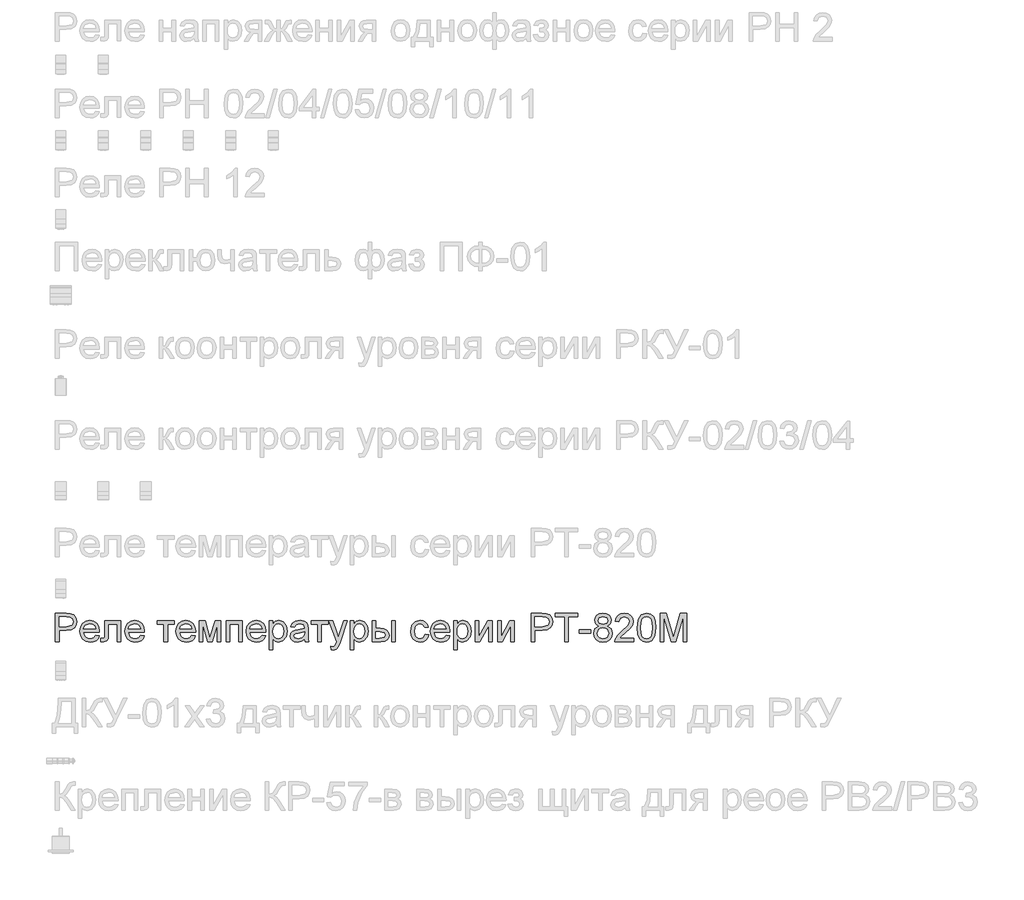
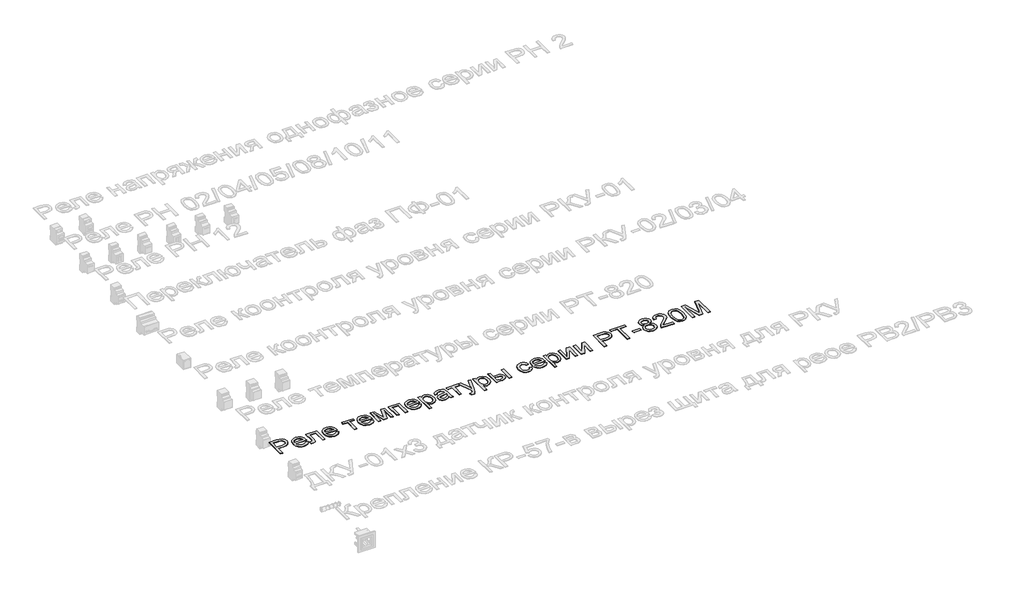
# One storey, part 7 of 34: 1 proxy.
"""IFC4 building model written with IfcOpenShell, lengths in millimetres."""

from ifc_helpers import new_model, si_unit, frame, origin, place, context, project, spatial, polyline, outline, extrude, element, save

model = new_model("IFC4")

# Units and contexts
model_context = context("Model", 3, world=origin())
ifc_project = project(units=[si_unit("LENGTHUNIT", "METRE", prefix="MILLI")], contexts=[model_context])

# Site, building, storey
site = spatial("IfcSite", under=ifc_project)
building = spatial("IfcBuilding", under=site)
storey = spatial("IfcBuildingStorey", under=building, Name="Этаж 01", Elevation=0.0)

# Proxy
placement = place(None, origin())
element("IfcBuildingElementProxy", 1, Name="Надпись на модели 1", ObjectType="Надпись на модели 1", at=placement, inside=storey, context=model_context, shape_type="SweptSolid", body=[
    extrude(outline(polyline([(-19039.0125911, 8086.235284), (-19039.0125911, 8186.6915941), (-19001.7829332, 8186.6915941), (-18986.7733478, 8185.735101), (-18974.5719283, 8181.0384742), (-18966.6624654, 8171.3263895), (-18963.6703585, 8157.6289165), (-18965.6906438, 8145.7892476), (-18971.7514996, 8135.9238788), (-18983.0853308, 8129.2652147), (-19000.9245418, 8127.04566), (-19026.4555523, 8127.04566), (-19026.4555523, 8086.235284), (-19039.0125911, 8086.235284)]), holes=[polyline([(-19026.4555523, 8139.6026988), (-19000.1887779, 8139.6026988), (-18981.6965762, 8144.2134864), (-18977.594692, 8149.7623732), (-18976.2273972, 8157.1874581), (-18979.4524961, 8167.5862559), (-18987.9260447, 8173.2761641), (-19000.4830834, 8174.1345554), (-19026.4555523, 8174.1345554), (-19026.4555523, 8139.6026988)])]), frame((0.0, 0.0, 40.0), z_axis=(0.0, 0.0, 1.0), x_axis=(1.0, 0.0, 0.0)), (0.0, 0.0, 1.0), 2.0),
    extrude(outline(polyline([(-18896.3234279, 8108.2101018), (-18884.0116438, 8106.640472), (-18888.4476875, 8097.3637143), (-18895.5263502, 8090.4291387), (-18905.0882164, 8086.1065253), (-18916.9738705, 8084.6656541), (-18931.7075445, 8087.1519233), (-18943.0444413, 8094.6107308), (-18950.2733225, 8106.5576985), (-18952.6829495, 8122.5084487), (-18950.248797, 8138.9956935), (-18942.9463394, 8151.3258717), (-18931.7627268, 8159.0146054), (-18917.6851091, 8161.5775166), (-18904.0458841, 8159.0207367), (-18893.14738, 8151.3503971), (-18886.0012722, 8139.0447444), (-18883.6192363, 8122.5820251), (-18883.6928127, 8119.1975108), (-18940.1259108, 8119.1975108), (-18937.9523413, 8109.7981258), (-18932.9031609, 8102.8880756), (-18925.6160317, 8098.6390386), (-18916.7286159, 8097.2226929), (-18904.4168318, 8099.8469178), (-18896.3234279, 8108.2101018)]), holes=[polyline([(-18940.1259108, 8131.7545495), (-18896.1762751, 8131.7545495), (-18901.2039957, 8143.1343659), (-18908.5248474, 8147.5489499), (-18917.73416, 8149.0204778), (-18933.1974665, 8144.323851), (-18938.0627059, 8138.8332123), (-18940.1259108, 8131.7545495)])]), frame((0.0, 0.0, 40.0), z_axis=(0.0, 0.0, 1.0), x_axis=(1.0, 0.0, 0.0)), (0.0, 0.0, 1.0), 2.0),
    extrude(outline(polyline([(-18864.7836782, 8160.0078868), (-18808.2770037, 8160.0078868), (-18808.2770037, 8086.3088604), (-18820.8340425, 8086.3088604), (-18820.8340425, 8147.450848), (-18852.2266394, 8147.450848), (-18852.2266394, 8112.2568038), (-18853.072768, 8096.0209451), (-18857.7203439, 8089.1660772), (-18868.7077528, 8086.235284), (-18878.9103468, 8086.8729461), (-18878.9103468, 8098.7923228), (-18873.294015, 8098.7923228), (-18867.6163695, 8099.564875), (-18865.3477639, 8102.0174216), (-18864.7836782, 8112.9680423), (-18864.7836782, 8160.0078868)])), frame((0.0, 0.0, 40.0), z_axis=(0.0, 0.0, 1.0), x_axis=(1.0, 0.0, 0.0)), (0.0, 0.0, 1.0), 2.0),
    extrude(outline(polyline([(-18737.7908134, 8108.2101018), (-18725.4790293, 8106.640472), (-18729.915073, 8097.3637143), (-18736.9937358, 8090.4291387), (-18746.555602, 8086.1065253), (-18758.4412561, 8084.6656541), (-18773.17493, 8087.1519233), (-18784.5118268, 8094.6107308), (-18791.740708, 8106.5576985), (-18794.1503351, 8122.5084487), (-18791.7161826, 8138.9956935), (-18784.4137249, 8151.3258717), (-18773.2301123, 8159.0146054), (-18759.1524946, 8161.5775166), (-18745.5132696, 8159.0207367), (-18734.6147655, 8151.3503971), (-18727.4686578, 8139.0447444), (-18725.0866219, 8122.5820251), (-18725.1601983, 8119.1975108), (-18781.5932963, 8119.1975108), (-18779.4197269, 8109.7981258), (-18774.3705465, 8102.8880756), (-18767.0834173, 8098.6390386), (-18758.1960014, 8097.2226929), (-18745.8842173, 8099.8469178), (-18737.7908134, 8108.2101018)]), holes=[polyline([(-18781.5932963, 8131.7545495), (-18737.6436606, 8131.7545495), (-18742.6713812, 8143.1343659), (-18749.9922329, 8147.5489499), (-18759.2015455, 8149.0204778), (-18774.6648521, 8144.323851), (-18779.5300915, 8138.8332123), (-18781.5932963, 8131.7545495)])]), frame((0.0, 0.0, 40.0), z_axis=(0.0, 0.0, 1.0), x_axis=(1.0, 0.0, 0.0)), (0.0, 0.0, 1.0), 2.0),
    extrude(outline(polyline([(-18679.5673563, 8160.0078868), (-18619.9214222, 8160.0078868), (-18619.9214222, 8147.450848), (-18643.4658699, 8147.450848), (-18643.4658699, 8086.235284), (-18656.0229086, 8086.235284), (-18656.0229086, 8147.450848), (-18679.5673563, 8147.450848), (-18679.5673563, 8160.0078868)])), frame((0.0, 0.0, 40.0), z_axis=(0.0, 0.0, 1.0), x_axis=(1.0, 0.0, 0.0)), (0.0, 0.0, 1.0), 2.0),
    extrude(outline(polyline([(-18557.2833811, 8108.2101018), (-18544.971597, 8106.640472), (-18549.4076407, 8097.3637143), (-18556.4863035, 8090.4291387), (-18566.0481697, 8086.1065253), (-18577.9338238, 8084.6656541), (-18592.6674977, 8087.1519233), (-18604.0043945, 8094.6107308), (-18611.2332757, 8106.5576985), (-18613.6429028, 8122.5084487), (-18611.2087503, 8138.9956935), (-18603.9062926, 8151.3258717), (-18592.72268, 8159.0146054), (-18578.6450623, 8161.5775166), (-18565.0058373, 8159.0207367), (-18554.1073332, 8151.3503971), (-18546.9612255, 8139.0447444), (-18544.5791896, 8122.5820251), (-18544.652766, 8119.1975108), (-18601.085864, 8119.1975108), (-18598.9122946, 8109.7981258), (-18593.8631142, 8102.8880756), (-18586.575985, 8098.6390386), (-18577.6885691, 8097.2226929), (-18565.376785, 8099.8469178), (-18557.2833811, 8108.2101018)]), holes=[polyline([(-18601.085864, 8131.7545495), (-18557.1362283, 8131.7545495), (-18562.1639489, 8143.1343659), (-18569.4848006, 8147.5489499), (-18578.6941132, 8149.0204778), (-18594.1574198, 8144.323851), (-18599.0226592, 8138.8332123), (-18601.085864, 8131.7545495)])]), frame((0.0, 0.0, 40.0), z_axis=(0.0, 0.0, 1.0), x_axis=(1.0, 0.0, 0.0)), (0.0, 0.0, 1.0), 2.0),
    extrude(outline(polyline([(-18532.0221508, 8160.0078868), (-18510.4152149, 8160.0078868), (-18493.7624233, 8100.9505638), (-18475.8097819, 8160.0078868), (-18455.1102883, 8160.0078868), (-18455.1102883, 8086.235284), (-18467.6673271, 8086.235284), (-18467.6673271, 8145.6359635), (-18485.7180703, 8086.235284), (-18502.1991837, 8086.235284), (-18519.465112, 8148.4809176), (-18519.465112, 8086.235284), (-18532.0221508, 8086.235284), (-18532.0221508, 8160.0078868)])), frame((0.0, 0.0, 40.0), z_axis=(0.0, 0.0, 1.0), x_axis=(1.0, 0.0, 0.0)), (0.0, 0.0, 1.0), 2.0),
    extrude(outline(polyline([(-18436.2747302, 8160.0078868), (-18379.7680557, 8160.0078868), (-18379.7680557, 8086.235284), (-18392.3250945, 8086.235284), (-18392.3250945, 8147.450848), (-18423.7176914, 8147.450848), (-18423.7176914, 8086.235284), (-18436.2747302, 8086.235284), (-18436.2747302, 8160.0078868)])), frame((0.0, 0.0, 40.0), z_axis=(0.0, 0.0, 1.0), x_axis=(1.0, 0.0, 0.0)), (0.0, 0.0, 1.0), 2.0),
    extrude(outline(polyline([(-18309.2818654, 8108.2101018), (-18296.9700813, 8106.640472), (-18301.4061251, 8097.3637143), (-18308.4847878, 8090.4291387), (-18318.046654, 8086.1065253), (-18329.9323081, 8084.6656541), (-18344.665982, 8087.1519233), (-18356.0028788, 8094.6107308), (-18363.23176, 8106.5576985), (-18365.6413871, 8122.5084487), (-18363.2072346, 8138.9956935), (-18355.904777, 8151.3258717), (-18344.7211643, 8159.0146054), (-18330.6435466, 8161.5775166), (-18317.0043217, 8159.0207367), (-18306.1058176, 8151.3503971), (-18298.9597098, 8139.0447444), (-18296.5776739, 8122.5820251), (-18296.6512503, 8119.1975108), (-18353.0843483, 8119.1975108), (-18350.9107789, 8109.7981258), (-18345.8615985, 8102.8880756), (-18338.5744693, 8098.6390386), (-18329.6870534, 8097.2226929), (-18317.3752693, 8099.8469178), (-18309.2818654, 8108.2101018)]), holes=[polyline([(-18353.0843483, 8131.7545495), (-18309.1347126, 8131.7545495), (-18314.1624332, 8143.1343659), (-18321.483285, 8147.5489499), (-18330.6925976, 8149.0204778), (-18346.1559041, 8144.323851), (-18351.0211435, 8138.8332123), (-18353.0843483, 8131.7545495)])]), frame((0.0, 0.0, 40.0), z_axis=(0.0, 0.0, 1.0), x_axis=(1.0, 0.0, 0.0)), (0.0, 0.0, 1.0), 2.0),
    extrude(outline(polyline([(-18284.0206351, 8057.9819468), (-18284.0206351, 8160.0078868), (-18271.4635963, 8160.0078868), (-18271.4635963, 8147.6961027), (-18262.7815813, 8158.1071631), (-18251.0584083, 8161.5775166), (-18235.1413807, 8156.7214743), (-18224.742583, 8143.036264), (-18221.2354413, 8123.6856711), (-18225.1963041, 8103.3417968), (-18236.6987478, 8089.4849083), (-18252.5789873, 8084.6656541), (-18263.5050825, 8087.890753), (-18271.4635963, 8096.0454705), (-18271.4635963, 8057.9819468), (-18284.0206351, 8057.9819468)]), holes=[polyline([(-18271.4635963, 8122.5329742), (-18270.1054986, 8111.2757851), (-18266.0312055, 8103.4031104), (-18260.0194006, 8098.7677973), (-18252.8487674, 8097.2226929), (-18245.5616382, 8098.8229796), (-18239.3965491, 8103.6238396), (-18235.1934973, 8111.7846886), (-18233.79248, 8123.4649419), (-18235.1597748, 8134.6608173), (-18239.261659, 8142.6438566), (-18245.2642669, 8147.4263225), (-18252.3337326, 8149.0204778), (-18259.4307894, 8147.325155), (-18265.6633235, 8142.2391864), (-18270.0135281, 8133.9219876), (-18271.4635963, 8122.5329742)])]), frame((0.0, 0.0, 40.0), z_axis=(0.0, 0.0, 1.0), x_axis=(1.0, 0.0, 0.0)), (0.0, 0.0, 1.0), 2.0),
    extrude(outline(polyline([(-18160.0198773, 8095.6530631), (-18172.1967713, 8087.1427262), (-18185.6489896, 8084.6656541), (-18196.1428235, 8086.1555762), (-18203.8836738, 8090.6253425), (-18208.6569427, 8097.4127653), (-18210.2480323, 8105.8556571), (-18207.8445366, 8115.7884709), (-18201.5292291, 8122.998958), (-18192.7368494, 8127.1192364), (-18181.8720678, 8129.0076973), (-18160.0934537, 8133.3241794), (-18160.0198773, 8136.1200825), (-18163.477968, 8145.3907088), (-18177.359382, 8149.0204778), (-18190.0635735, 8146.6047194), (-18196.1213637, 8138.0330689), (-18208.6784025, 8139.6026988), (-18203.2460117, 8151.8654319), (-18192.3076537, 8159.0513936), (-18175.7407012, 8161.5775166), (-18160.5226493, 8159.3456992), (-18151.9264734, 8153.7416301), (-18148.0759752, 8145.2190306), (-18147.4628385, 8134.2316216), (-18147.4628385, 8118.6088996), (-18146.8251764, 8096.7934973), (-18144.3235788, 8086.235284), (-18156.8806176, 8086.235284), (-18160.0198773, 8095.6530631)]), holes=[polyline([(-18160.0198773, 8120.7671406), (-18180.2779125, 8116.9166424), (-18191.0813804, 8114.8810287), (-18195.9742109, 8111.5700907), (-18197.6909936, 8106.7385739), (-18193.95086, 8099.9450197), (-18182.9757138, 8097.2226929), (-18170.2715222, 8100.2270625), (-18162.0800164, 8107.4988633), (-18160.0934537, 8117.210948), (-18160.0198773, 8120.7671406)])]), frame((0.0, 0.0, 40.0), z_axis=(0.0, 0.0, 1.0), x_axis=(1.0, 0.0, 0.0)), (0.0, 0.0, 1.0), 2.0),
    extrude(outline(polyline([(-18136.4754296, 8160.0078868), (-18076.8294954, 8160.0078868), (-18076.8294954, 8147.450848), (-18100.3739431, 8147.450848), (-18100.3739431, 8086.235284), (-18112.9309819, 8086.235284), (-18112.9309819, 8147.450848), (-18136.4754296, 8147.450848), (-18136.4754296, 8160.0078868)])), frame((0.0, 0.0, 40.0), z_axis=(0.0, 0.0, 1.0), x_axis=(1.0, 0.0, 0.0)), (0.0, 0.0, 1.0), 2.0),
    extrude(outline(polyline([(-18065.8420865, 8057.9819468), (-18067.4117163, 8070.0730017), (-18061.0350951, 8068.9693557), (-18055.0754068, 8070.3550445), (-18051.4211123, 8074.2178055), (-18047.987547, 8083.4639063), (-18047.0065283, 8086.5050641), (-18073.6902357, 8160.0078868), (-18060.4464839, 8160.0078868), (-18046.2952898, 8119.050358), (-18041.3656711, 8102.6673464), (-18036.4360524, 8117.1373716), (-18021.8924508, 8160.0078868), (-18008.7468009, 8160.0078868), (-18034.4249641, 8084.4694504), (-18041.095891, 8068.0864389), (-18048.3799545, 8059.2327455), (-18058.1656155, 8056.4123169), (-18065.8420865, 8057.9819468)])), frame((0.0, 0.0, 40.0), z_axis=(0.0, 0.0, 1.0), x_axis=(1.0, 0.0, 0.0)), (0.0, 0.0, 1.0), 2.0),
    extrude(outline(polyline([(-17998.3480031, 8057.9819468), (-17998.3480031, 8160.0078868), (-17985.7909644, 8160.0078868), (-17985.7909644, 8147.6961027), (-17977.1089493, 8158.1071631), (-17965.3857764, 8161.5775166), (-17949.4687487, 8156.7214743), (-17939.069951, 8143.036264), (-17935.5628093, 8123.6856711), (-17939.5236721, 8103.3417968), (-17951.0261158, 8089.4849083), (-17966.9063553, 8084.6656541), (-17977.8324505, 8087.890753), (-17985.7909644, 8096.0454705), (-17985.7909644, 8057.9819468), (-17998.3480031, 8057.9819468)]), holes=[polyline([(-17985.7909644, 8122.5329742), (-17984.4328667, 8111.2757851), (-17980.3585736, 8103.4031104), (-17974.3467686, 8098.7677973), (-17967.1761354, 8097.2226929), (-17959.8890062, 8098.8229796), (-17953.7239171, 8103.6238396), (-17949.5208653, 8111.7846886), (-17948.119848, 8123.4649419), (-17949.4871428, 8134.6608173), (-17953.589027, 8142.6438566), (-17959.5916349, 8147.4263225), (-17966.6611006, 8149.0204778), (-17973.7581574, 8147.325155), (-17979.9906916, 8142.2391864), (-17984.3408962, 8133.9219876), (-17985.7909644, 8122.5329742)])]), frame((0.0, 0.0, 40.0), z_axis=(0.0, 0.0, 1.0), x_axis=(1.0, 0.0, 0.0)), (0.0, 0.0, 1.0), 2.0),
    extrude(outline(polyline([(-17852.3724274, 8160.0078868), (-17839.8153887, 8160.0078868), (-17839.8153887, 8086.235284), (-17852.3724274, 8086.235284), (-17852.3724274, 8160.0078868)])), frame((0.0, 0.0, 40.0), z_axis=(0.0, 0.0, 1.0), x_axis=(1.0, 0.0, 0.0)), (0.0, 0.0, 1.0), 2.0),
    extrude(outline(polyline([(-17921.4361407, 8160.0078868), (-17908.8791019, 8160.0078868), (-17908.8791019, 8133.3241794), (-17893.3544817, 8133.3241794), (-17879.9359859, 8131.7514838), (-17869.993975, 8127.0333973), (-17863.8411486, 8119.5500643), (-17861.7902065, 8109.6816298), (-17863.5100548, 8100.6961121), (-17868.6695998, 8093.1146773), (-17877.6060666, 8087.9551323), (-17890.6566804, 8086.235284), (-17921.4361407, 8086.235284), (-17921.4361407, 8160.0078868)]), holes=[polyline([(-17908.8791019, 8098.7923228), (-17895.9787066, 8098.7923228), (-17879.3259149, 8101.4288104), (-17874.3472453, 8109.6571044), (-17878.038328, 8117.3826263), (-17894.3355004, 8120.7671406), (-17908.8791019, 8120.7671406), (-17908.8791019, 8098.7923228)])]), frame((0.0, 0.0, 40.0), z_axis=(0.0, 0.0, 1.0), x_axis=(1.0, 0.0, 0.0)), (0.0, 0.0, 1.0), 2.0),
    extrude(outline(polyline([(-17734.650189, 8112.9189914), (-17722.0931502, 8111.3493615), (-17725.5941605, 8100.1810773), (-17732.1731169, 8091.7412512), (-17741.2107512, 8086.4345534), (-17752.0877955, 8084.6656541), (-17765.4449777, 8087.1335292), (-17775.8897606, 8094.5371544), (-17782.6311982, 8106.5515672), (-17784.8783441, 8122.8518052), (-17781.0401086, 8143.7107144), (-17769.3414611, 8157.1138817), (-17752.2594738, 8161.5775166), (-17741.6491439, 8160.044675), (-17733.1663983, 8155.44615), (-17727.0810169, 8148.0271964), (-17723.6627801, 8138.0330689), (-17736.2198188, 8136.4634391), (-17742.0446171, 8145.8689554), (-17752.1613719, 8149.0204778), (-17760.2762356, 8147.4692421), (-17766.7172362, 8142.8155349), (-17770.920288, 8134.8079701), (-17772.3213053, 8123.1951618), (-17770.9509449, 8111.4260036), (-17766.8398636, 8103.3908477), (-17760.5153589, 8098.7647316), (-17752.5047285, 8097.2226929), (-17740.671191, 8101.0731911), (-17734.650189, 8112.9189914)])), frame((0.0, 0.0, 40.0), z_axis=(0.0, 0.0, 1.0), x_axis=(1.0, 0.0, 0.0)), (0.0, 0.0, 1.0), 2.0),
    extrude(outline(polyline([(-17659.4551092, 8108.2101018), (-17647.1433251, 8106.640472), (-17651.5793688, 8097.3637143), (-17658.6580315, 8090.4291387), (-17668.2198977, 8086.1065253), (-17680.1055518, 8084.6656541), (-17694.8392257, 8087.1519233), (-17706.1761226, 8094.6107308), (-17713.4050038, 8106.5576985), (-17715.8146308, 8122.5084487), (-17713.3804783, 8138.9956935), (-17706.0780207, 8151.3258717), (-17694.894408, 8159.0146054), (-17680.8167904, 8161.5775166), (-17667.1775654, 8159.0207367), (-17656.2790613, 8151.3503971), (-17649.1329535, 8139.0447444), (-17646.7509176, 8122.5820251), (-17646.824494, 8119.1975108), (-17703.2575921, 8119.1975108), (-17701.0840226, 8109.7981258), (-17696.0348422, 8102.8880756), (-17688.747713, 8098.6390386), (-17679.8602972, 8097.2226929), (-17667.5485131, 8099.8469178), (-17659.4551092, 8108.2101018)]), holes=[polyline([(-17703.2575921, 8131.7545495), (-17659.3079564, 8131.7545495), (-17664.335677, 8143.1343659), (-17671.6565287, 8147.5489499), (-17680.8658413, 8149.0204778), (-17696.3291478, 8144.323851), (-17701.1943872, 8138.8332123), (-17703.2575921, 8131.7545495)])]), frame((0.0, 0.0, 40.0), z_axis=(0.0, 0.0, 1.0), x_axis=(1.0, 0.0, 0.0)), (0.0, 0.0, 1.0), 2.0),
    extrude(outline(polyline([(-17634.1938788, 8057.9819468), (-17634.1938788, 8160.0078868), (-17621.6368401, 8160.0078868), (-17621.6368401, 8147.6961027), (-17612.954825, 8158.1071631), (-17601.2316521, 8161.5775166), (-17585.3146244, 8156.7214743), (-17574.9158267, 8143.036264), (-17571.408685, 8123.6856711), (-17575.3695478, 8103.3417968), (-17586.8719915, 8089.4849083), (-17602.752231, 8084.6656541), (-17613.6783262, 8087.890753), (-17621.6368401, 8096.0454705), (-17621.6368401, 8057.9819468), (-17634.1938788, 8057.9819468)]), holes=[polyline([(-17621.6368401, 8122.5329742), (-17620.2787424, 8111.2757851), (-17616.2044493, 8103.4031104), (-17610.1926443, 8098.7677973), (-17603.0220111, 8097.2226929), (-17595.7348819, 8098.8229796), (-17589.5697928, 8103.6238396), (-17585.366741, 8111.7846886), (-17583.9657238, 8123.4649419), (-17585.3330185, 8134.6608173), (-17589.4349027, 8142.6438566), (-17595.4375106, 8147.4263225), (-17602.5069763, 8149.0204778), (-17609.6040331, 8147.325155), (-17615.8365673, 8142.2391864), (-17620.1867719, 8133.9219876), (-17621.6368401, 8122.5329742)])]), frame((0.0, 0.0, 40.0), z_axis=(0.0, 0.0, 1.0), x_axis=(1.0, 0.0, 0.0)), (0.0, 0.0, 1.0), 2.0),
    extrude(outline(polyline([(-17557.2820164, 8160.0078868), (-17544.7249776, 8160.0078868), (-17544.7249776, 8103.746467), (-17513.8719409, 8160.0078868), (-17497.6360822, 8160.0078868), (-17497.6360822, 8086.235284), (-17510.193121, 8086.235284), (-17510.193121, 8142.1533473), (-17540.8499539, 8086.235284), (-17557.2820164, 8086.235284), (-17557.2820164, 8160.0078868)])), frame((0.0, 0.0, 40.0), z_axis=(0.0, 0.0, 1.0), x_axis=(1.0, 0.0, 0.0)), (0.0, 0.0, 1.0), 2.0),
    extrude(outline(polyline([(-17478.8005241, 8160.0078868), (-17466.2434853, 8160.0078868), (-17466.2434853, 8103.746467), (-17435.3904486, 8160.0078868), (-17419.1545899, 8160.0078868), (-17419.1545899, 8086.235284), (-17431.7116287, 8086.235284), (-17431.7116287, 8142.1533473), (-17462.3684616, 8086.235284), (-17478.8005241, 8086.235284), (-17478.8005241, 8160.0078868)])), frame((0.0, 0.0, 40.0), z_axis=(0.0, 0.0, 1.0), x_axis=(1.0, 0.0, 0.0)), (0.0, 0.0, 1.0), 2.0),
    extrude(outline(polyline([(-17359.5086558, 8086.235284), (-17359.5086558, 8186.6915941), (-17322.2789979, 8186.6915941), (-17307.2694124, 8185.735101), (-17295.0679929, 8181.0384742), (-17287.15853, 8171.3263895), (-17284.1664232, 8157.6289165), (-17286.1867084, 8145.7892476), (-17292.2475643, 8135.9238788), (-17303.5813954, 8129.2652147), (-17321.4206065, 8127.04566), (-17346.951617, 8127.04566), (-17346.951617, 8086.235284), (-17359.5086558, 8086.235284)]), holes=[polyline([(-17346.951617, 8139.6026988), (-17320.6848425, 8139.6026988), (-17302.1926409, 8144.2134864), (-17298.0907567, 8149.7623732), (-17296.7234619, 8157.1874581), (-17299.9485607, 8167.5862559), (-17308.4221094, 8173.2761641), (-17320.9791481, 8174.1345554), (-17346.951617, 8174.1345554), (-17346.951617, 8139.6026988)])]), frame((0.0, 0.0, 40.0), z_axis=(0.0, 0.0, 1.0), x_axis=(1.0, 0.0, 0.0)), (0.0, 0.0, 1.0), 2.0),
    extrude(outline(polyline([(-17241.7864173, 8086.235284), (-17241.7864173, 8174.1345554), (-17274.7486441, 8174.1345554), (-17274.7486441, 8186.6915941), (-17196.2671518, 8186.6915941), (-17196.2671518, 8174.1345554), (-17229.2293785, 8174.1345554), (-17229.2293785, 8086.235284), (-17241.7864173, 8086.235284)])), frame((0.0, 0.0, 40.0), z_axis=(0.0, 0.0, 1.0), x_axis=(1.0, 0.0, 0.0)), (0.0, 0.0, 1.0), 2.0),
    extrude(outline(polyline([(-17189.9886324, 8116.0582511), (-17189.9886324, 8128.6152898), (-17150.7478862, 8128.6152898), (-17150.7478862, 8116.0582511), (-17189.9886324, 8116.0582511)])), frame((0.0, 0.0, 40.0), z_axis=(0.0, 0.0, 1.0), x_axis=(1.0, 0.0, 0.0)), (0.0, 0.0, 1.0), 2.0),
    extrude(outline(polyline([(-17121.4644794, 8141.5647361), (-17132.9056095, 8149.3638344), (-17136.6212176, 8161.5039402), (-17134.5978666, 8171.3202581), (-17128.5278137, 8179.4320561), (-17119.0916405, 8184.8767096), (-17106.9699288, 8186.6915941), (-17094.7746407, 8184.8337901), (-17085.2158402, 8179.2603778), (-17079.0354226, 8171.0198211), (-17076.9752835, 8161.1605837), (-17080.6418407, 8149.3270462), (-17091.7641397, 8141.5647361), (-17078.4100232, 8131.7177613), (-17073.8360238, 8115.4696399), (-17076.1046294, 8103.4644241), (-17082.9104463, 8093.543873), (-17093.4196087, 8086.8852089), (-17106.7982505, 8084.6656541), (-17120.1768924, 8086.8944059), (-17130.6860548, 8093.5806612), (-17137.4918717, 8103.5962485), (-17139.7604773, 8115.8129964), (-17135.0025368, 8132.4412626), (-17121.4644794, 8141.5647361)]), holes=[polyline([(-17127.2034385, 8116.2544548), (-17125.1065112, 8106.7998875), (-17117.6875576, 8099.7242905), (-17106.7001487, 8097.2226929), (-17098.1530237, 8098.537871), (-17091.7396142, 8102.4834054), (-17086.3930625, 8115.8620473), (-17091.9112925, 8129.4982066), (-17098.4718547, 8133.5449086), (-17107.1170816, 8134.8938092), (-17115.544645, 8133.5633027), (-17121.8936751, 8129.571783), (-17127.2034385, 8116.2544548)]), polyline([(-17124.0641789, 8161.1360582), (-17119.6128067, 8151.2768207), (-17106.6510977, 8147.450848), (-17093.9469062, 8151.2522953), (-17089.5323222, 8160.5719725), (-17094.094059, 8170.2227435), (-17106.7982505, 8174.1345554), (-17119.5392303, 8170.3085826), (-17124.0641789, 8161.1360582)])]), frame((0.0, 0.0, 40.0), z_axis=(0.0, 0.0, 1.0), x_axis=(1.0, 0.0, 0.0)), (0.0, 0.0, 1.0), 2.0),
    extrude(outline(polyline([(-16998.4937912, 8098.7923228), (-16998.4937912, 8086.235284), (-17064.4182447, 8086.235284), (-17063.0693441, 8094.8927736), (-17055.441924, 8108.2223646), (-17039.7211001, 8122.7782288), (-17018.0405878, 8143.6984516), (-17012.6204598, 8157.9232221), (-17017.7340195, 8169.4379286), (-17031.0881359, 8174.1345554), (-17045.0063381, 8169.5482932), (-17050.2915761, 8156.8686271), (-17062.8486149, 8158.4382569), (-17059.8043913, 8170.5844941), (-17053.2223693, 8179.4565816), (-17043.4459053, 8184.882841), (-17030.8183558, 8186.6915941), (-17018.0988358, 8184.6805059), (-17008.3407659, 8178.6472412), (-17002.1327572, 8169.6341323), (-17000.063421, 8158.6835116), (-17002.2952384, 8146.7763977), (-17009.714192, 8134.4646136), (-17027.7036216, 8117.2599989), (-17042.1491213, 8105.1812067), (-17047.814504, 8098.7923228), (-16998.4937912, 8098.7923228)])), frame((0.0, 0.0, 40.0), z_axis=(0.0, 0.0, 1.0), x_axis=(1.0, 0.0, 0.0)), (0.0, 0.0, 1.0), 2.0),
    extrude(outline(polyline([(-16985.9367524, 8135.6540987), (-16982.2456697, 8164.5573608), (-16971.2827863, 8181.2224151), (-16952.9745256, 8186.6915941), (-16938.3082968, 8183.4542326), (-16928.1792792, 8174.1222926), (-16922.2931672, 8159.25986), (-16920.0122989, 8135.6540987), (-16923.6665933, 8106.8734639), (-16934.5926886, 8090.1716213), (-16942.8240482, 8086.0421459), (-16952.9745256, 8084.6656541), (-16966.0220737, 8087.0568871), (-16975.9303621, 8094.230586), (-16983.4351548, 8111.2206028), (-16985.9367524, 8135.6540987)]), holes=[polyline([(-16973.3797136, 8135.6786241), (-16971.9081856, 8115.9264267), (-16967.4936017, 8104.4944937), (-16960.9207767, 8099.0406431), (-16952.9745256, 8097.2226929), (-16945.0282745, 8099.0467745), (-16938.4554496, 8104.5190192), (-16934.0408656, 8115.9570835), (-16932.5693376, 8135.6786241), (-16933.9918147, 8154.9862975), (-16938.2592458, 8166.5071353), (-16944.8198081, 8172.2277004), (-16953.1216784, 8174.1345554), (-16960.9820904, 8172.4545609), (-16967.297398, 8167.4145776), (-16971.8591347, 8155.1763699), (-16973.3797136, 8135.6786241)])]), frame((0.0, 0.0, 40.0), z_axis=(0.0, 0.0, 1.0), x_axis=(1.0, 0.0, 0.0)), (0.0, 0.0, 1.0), 2.0),
    extrude(outline(polyline([(-16904.3160004, 8086.235284), (-16904.3160004, 8186.6915941), (-16882.7090645, 8186.6915941), (-16862.1567238, 8115.8865728), (-16858.0119199, 8101.0977166), (-16853.5237596, 8117.1128461), (-16833.3147753, 8186.6915941), (-16811.7078395, 8186.6915941), (-16811.7078395, 8086.235284), (-16824.2648782, 8086.235284), (-16824.2648782, 8174.1345554), (-16849.5015831, 8086.235284), (-16866.5222568, 8086.235284), (-16891.7589616, 8174.1345554), (-16891.7589616, 8086.235284), (-16904.3160004, 8086.235284)])), frame((0.0, 0.0, 40.0), z_axis=(0.0, 0.0, 1.0), x_axis=(1.0, 0.0, 0.0)), (0.0, 0.0, 1.0), 2.0),
])

save(model, "model.ifc")
